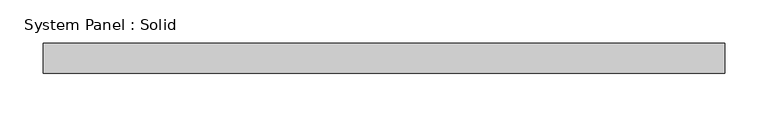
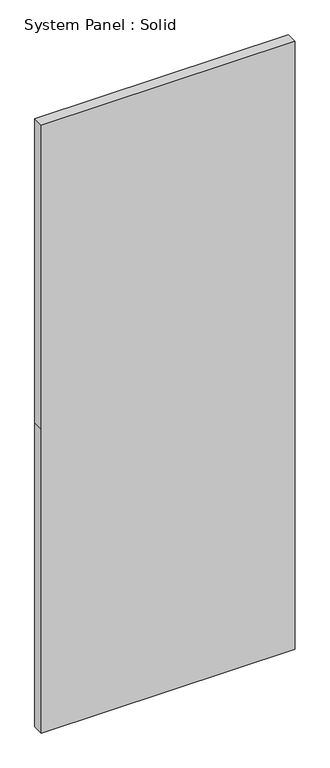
"""IFC4 building model written with IfcOpenShell, lengths in millimetres: plate geometry, System Panel : Solid."""

from ifc_helpers import new_model, si_unit, frame, origin, place, context, project, spatial, polyline, outline, extrude, source, transform, mapped, element, save


def system_panel_solid_108f1732(model_context):
    return source(origin(), model_context, "Body", "SweptSolid", [
        extrude(outline(polyline([(0.0, -394.9999998), (0.0, 394.9999998), (1000.0, 394.9999998), (2000.0, 394.9999998), (2000.0, -394.9999998), (1000.0, -394.9999998), (0.0, -394.9999998)])), frame((0.0, -2.5, 0.0), z_axis=(0.0, 1.0, 0.0), x_axis=(0.0, 0.0, 1.0)), (0.0, 0.0, 1.0), 35.0),
    ])


if __name__ == "__main__":
    model = new_model("IFC4")
    model_context = context("Model", 3, world=origin())
    ifc_project = project(units=[si_unit("LENGTHUNIT", "METRE", prefix="MILLI")], contexts=[model_context])
    site = spatial("IfcSite", under=ifc_project)
    building = spatial("IfcBuilding", under=site)
    placement = place(None, origin())
    system_panel_solid_shape = system_panel_solid_108f1732(model_context)
    element("IfcPlate", 1, ObjectType="System Panel : Solid", at=placement, inside=building, context=model_context, shape_type="MappedRepresentation", body=[
        mapped(system_panel_solid_shape, transform((0.0, 0.0, 0.0), x_axis=(1.0, 0.0, 0.0), y_axis=(0.0, 1.0, 0.0), z_axis=(0.0, 0.0, 1.0))),
    ])
    save(model, "model.ifc")
